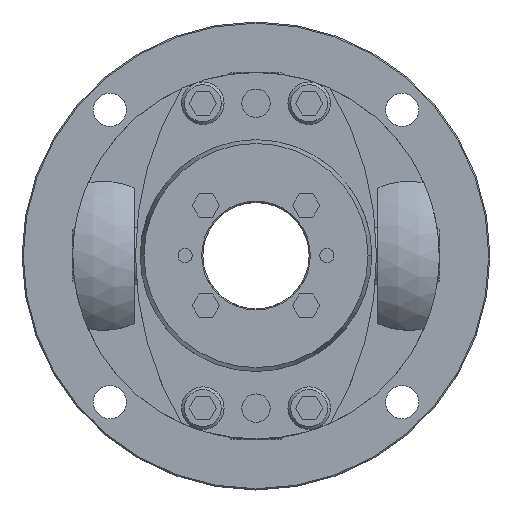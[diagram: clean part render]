
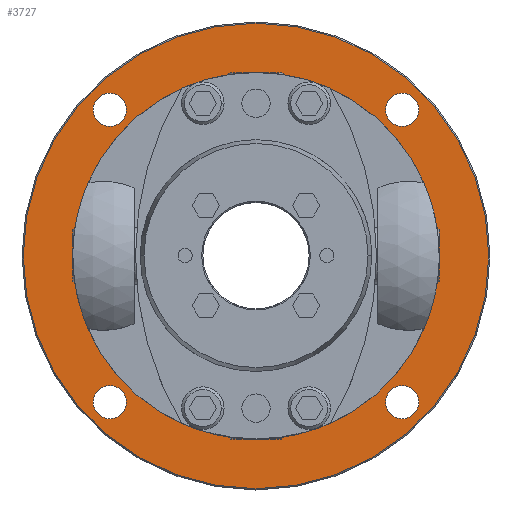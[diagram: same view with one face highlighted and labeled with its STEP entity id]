
A CAD part, top view. The second image highlights one B-rep face of the part: STEP entity #3727.
In plain terms, the highlighted planar face has unit normal (0, 0, 1).
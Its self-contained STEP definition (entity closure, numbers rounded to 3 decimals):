
#2039=CARTESIAN_POINT('',(0.,77.5,-28.5));
#2040=VERTEX_POINT('',#2039);
#2049=CARTESIAN_POINT('',(0.,-77.5,-28.5));
#2050=VERTEX_POINT('',#2049);
#2051=CARTESIAN_POINT('',(0.0,0.0,-28.5));
#2052=DIRECTION('',(0.0,0.0,-1.0));
#2053=DIRECTION('',(0.0,1.0,0.0));
#2054=AXIS2_PLACEMENT_3D('',#2051,#2052,#2053);
#2055=CIRCLE('',#2054,77.5);
#2056=EDGE_CURVE('',#2050,#2040,#2055,.T.);
#2131=CARTESIAN_POINT('',(-61.872,68.872,-28.5));
#2132=VERTEX_POINT('',#2131);
#2141=CARTESIAN_POINT('',(-61.872,54.872,-28.5));
#2142=VERTEX_POINT('',#2141);
#2143=CARTESIAN_POINT('',(-61.872,61.872,-28.5));
#2144=DIRECTION('',(0.0,0.0,-1.0));
#2145=DIRECTION('',(0.0,1.0,0.0));
#2146=AXIS2_PLACEMENT_3D('',#2143,#2144,#2145);
#2147=CIRCLE('',#2146,7.0);
#2148=EDGE_CURVE('',#2142,#2132,#2147,.T.);
#2173=CARTESIAN_POINT('',(-61.872,-54.872,-28.5));
#2174=VERTEX_POINT('',#2173);
#2183=CARTESIAN_POINT('',(-61.872,-68.872,-28.5));
#2184=VERTEX_POINT('',#2183);
#2185=CARTESIAN_POINT('',(-61.872,-61.872,-28.5));
#2186=DIRECTION('',(0.0,0.0,-1.0));
#2187=DIRECTION('',(0.0,1.0,0.0));
#2188=AXIS2_PLACEMENT_3D('',#2185,#2186,#2187);
#2189=CIRCLE('',#2188,7.0);
#2190=EDGE_CURVE('',#2184,#2174,#2189,.T.);
#2215=CARTESIAN_POINT('',(61.872,-54.872,-28.5));
#2216=VERTEX_POINT('',#2215);
#2225=CARTESIAN_POINT('',(61.872,-68.872,-28.5));
#2226=VERTEX_POINT('',#2225);
#2227=CARTESIAN_POINT('',(61.872,-61.872,-28.5));
#2228=DIRECTION('',(0.0,0.0,-1.0));
#2229=DIRECTION('',(0.0,1.0,0.0));
#2230=AXIS2_PLACEMENT_3D('',#2227,#2228,#2229);
#2231=CIRCLE('',#2230,7.0);
#2232=EDGE_CURVE('',#2226,#2216,#2231,.T.);
#2257=CARTESIAN_POINT('',(61.872,68.872,-28.5));
#2258=VERTEX_POINT('',#2257);
#2267=CARTESIAN_POINT('',(61.872,54.872,-28.5));
#2268=VERTEX_POINT('',#2267);
#2269=CARTESIAN_POINT('',(61.872,61.872,-28.5));
#2270=DIRECTION('',(0.0,0.0,-1.0));
#2271=DIRECTION('',(0.0,1.0,0.0));
#2272=AXIS2_PLACEMENT_3D('',#2269,#2270,#2271);
#2273=CIRCLE('',#2272,7.0);
#2274=EDGE_CURVE('',#2268,#2258,#2273,.T.);
#2805=CARTESIAN_POINT('',(0.,-98.5,-28.5));
#2806=VERTEX_POINT('',#2805);
#2815=CARTESIAN_POINT('',(0.,98.5,-28.5));
#2816=VERTEX_POINT('',#2815);
#2817=CARTESIAN_POINT('',(0.0,0.0,-28.5));
#2818=DIRECTION('',(0.0,0.0,-1.0));
#2819=DIRECTION('',(0.0,-1.0,0.0));
#2820=AXIS2_PLACEMENT_3D('',#2817,#2818,#2819);
#2821=CIRCLE('',#2820,98.5);
#2822=EDGE_CURVE('',#2806,#2816,#2821,.T.);
#3658=CARTESIAN_POINT('',(0.0,0.0,-28.5));
#3659=DIRECTION('',(0.0,0.0,-1.0));
#3660=DIRECTION('',(0.0,-1.0,0.0));
#3661=AXIS2_PLACEMENT_3D('',#3658,#3659,#3660);
#3662=CIRCLE('',#3661,98.5);
#3663=EDGE_CURVE('',#2816,#2806,#3662,.T.);
#3668=CARTESIAN_POINT('',(0.,9.,-28.5));
#3669=DIRECTION('',(0.0,0.0,1.0));
#3670=DIRECTION('',(0.0,1.0,0.0));
#3671=AXIS2_PLACEMENT_3D('',#3668,#3669,#3670);
#3672=PLANE('',#3671);
#3673=ORIENTED_EDGE('',*,*,#3663,.F.);
#3674=ORIENTED_EDGE('',*,*,#2822,.F.);
#3675=EDGE_LOOP('',(#3673,#3674));
#3676=FACE_OUTER_BOUND('',#3675,.T.);
#3677=ORIENTED_EDGE('',*,*,#2056,.T.);
#3678=CARTESIAN_POINT('',(0.0,0.0,-28.5));
#3679=DIRECTION('',(0.0,0.0,-1.0));
#3680=DIRECTION('',(0.0,1.0,0.0));
#3681=AXIS2_PLACEMENT_3D('',#3678,#3679,#3680);
#3682=CIRCLE('',#3681,77.5);
#3683=EDGE_CURVE('',#2040,#2050,#3682,.T.);
#3684=ORIENTED_EDGE('',*,*,#3683,.T.);
#3685=EDGE_LOOP('',(#3677,#3684));
#3686=FACE_BOUND('',#3685,.T.);
#3687=ORIENTED_EDGE('',*,*,#2148,.T.);
#3688=CARTESIAN_POINT('',(-61.872,61.872,-28.5));
#3689=DIRECTION('',(0.0,0.0,-1.0));
#3690=DIRECTION('',(0.0,1.0,0.0));
#3691=AXIS2_PLACEMENT_3D('',#3688,#3689,#3690);
#3692=CIRCLE('',#3691,7.0);
#3693=EDGE_CURVE('',#2132,#2142,#3692,.T.);
#3694=ORIENTED_EDGE('',*,*,#3693,.T.);
#3695=EDGE_LOOP('',(#3687,#3694));
#3696=FACE_BOUND('',#3695,.T.);
#3697=ORIENTED_EDGE('',*,*,#2190,.T.);
#3698=CARTESIAN_POINT('',(-61.872,-61.872,-28.5));
#3699=DIRECTION('',(0.0,0.0,-1.0));
#3700=DIRECTION('',(0.0,1.0,0.0));
#3701=AXIS2_PLACEMENT_3D('',#3698,#3699,#3700);
#3702=CIRCLE('',#3701,7.0);
#3703=EDGE_CURVE('',#2174,#2184,#3702,.T.);
#3704=ORIENTED_EDGE('',*,*,#3703,.T.);
#3705=EDGE_LOOP('',(#3697,#3704));
#3706=FACE_BOUND('',#3705,.T.);
#3707=ORIENTED_EDGE('',*,*,#2232,.T.);
#3708=CARTESIAN_POINT('',(61.872,-61.872,-28.5));
#3709=DIRECTION('',(0.0,0.0,-1.0));
#3710=DIRECTION('',(0.0,1.0,0.0));
#3711=AXIS2_PLACEMENT_3D('',#3708,#3709,#3710);
#3712=CIRCLE('',#3711,7.0);
#3713=EDGE_CURVE('',#2216,#2226,#3712,.T.);
#3714=ORIENTED_EDGE('',*,*,#3713,.T.);
#3715=EDGE_LOOP('',(#3707,#3714));
#3716=FACE_BOUND('',#3715,.T.);
#3717=ORIENTED_EDGE('',*,*,#2274,.T.);
#3718=CARTESIAN_POINT('',(61.872,61.872,-28.5));
#3719=DIRECTION('',(0.0,0.0,-1.0));
#3720=DIRECTION('',(0.0,1.0,0.0));
#3721=AXIS2_PLACEMENT_3D('',#3718,#3719,#3720);
#3722=CIRCLE('',#3721,7.0);
#3723=EDGE_CURVE('',#2258,#2268,#3722,.T.);
#3724=ORIENTED_EDGE('',*,*,#3723,.T.);
#3725=EDGE_LOOP('',(#3717,#3724));
#3726=FACE_BOUND('',#3725,.T.);
#3727=ADVANCED_FACE('',(#3676,#3686,#3696,#3706,#3716,#3726),#3672,.T.);
